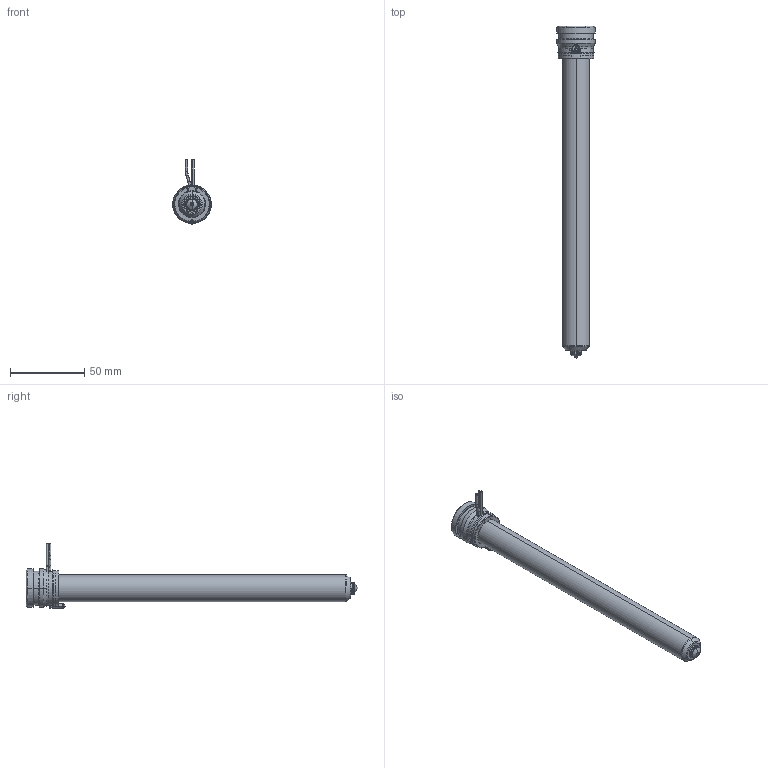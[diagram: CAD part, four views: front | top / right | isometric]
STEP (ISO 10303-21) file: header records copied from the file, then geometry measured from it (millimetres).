
FILE_DESCRIPTION((''),'2;1');
FILE_NAME('MPN-08-24-TS8-206-A','2026-02-05T11:53:54',('UPTIO'),('Thermoplay S.p.A.'),'CREO PARAMETRIC BY PTC INC, 2023494','CREO PARAMETRIC BY PTC INC, 2023494','');
FILE_SCHEMA(('CONFIG_CONTROL_DESIGN','SHAPE_APPEARANCE_LAYERS_GROUPS'));
Length unit declared in the file: millimetre
Products named in the file (1): MPN-08-24-TS8-206-A
Bounding box: 26 x 224 x 43.5 mm (x, y, z)
Volume: 41422 mm3; surface area: 54642.3 mm2
Topology: 2 solids, 5 shells, 548 faces, 1437 edges, 892 vertices
Faces by surface type: cylinder 178, plane 146, bspline 82, torus 64, cone 60, sphere 12, extrusion 6
Entity records: 29740 total; most frequent: CARTESIAN_POINT 13567, ORIENTED_EDGE 2854, DIRECTION 2539, EDGE_CURVE 1427, AXIS2_PLACEMENT_3D 992, VERTEX_POINT 892, EDGE_LOOP 575, VECTOR 555
